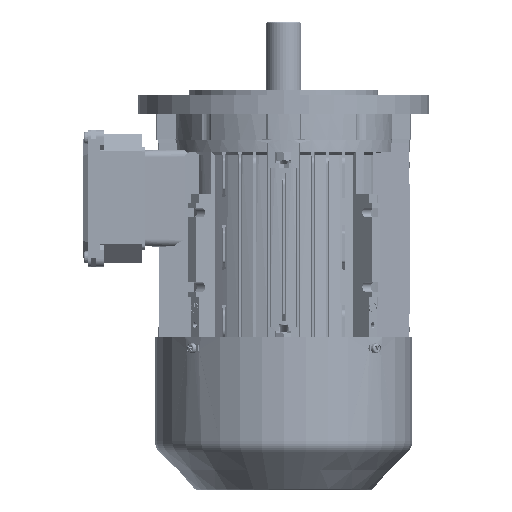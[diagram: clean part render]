
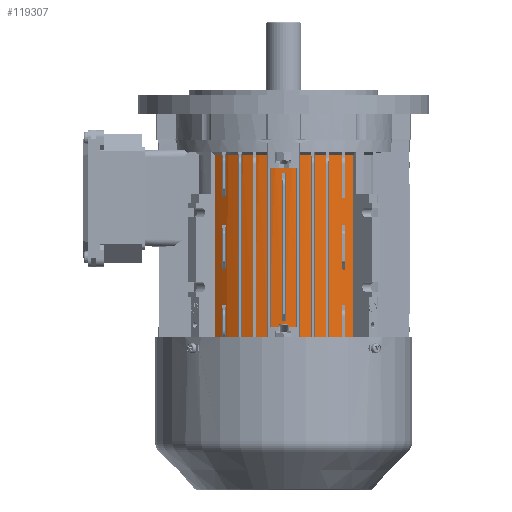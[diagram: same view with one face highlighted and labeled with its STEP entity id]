
A CAD part, left-side view. The second image highlights one B-rep face of the part: STEP entity #119307.
In plain terms, the highlighted cylindrical face has radius 71.192 mm (diameter 142.384 mm), a partial arc.
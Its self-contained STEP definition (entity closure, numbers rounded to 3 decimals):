
#2863 = DIRECTION ( 'NONE',  ( 0., 0., 1. ) ) ;
#3553 = DIRECTION ( 'NONE',  ( 0., 0., -1. ) ) ;
#6653 = VERTEX_POINT ( 'NONE', #12723 ) ;
#9259 = VERTEX_POINT ( 'NONE', #29663 ) ;
#11440 = CIRCLE ( 'NONE', #16991, 71.192 ) ;
#12723 = CARTESIAN_POINT ( 'NONE',  ( -71.192, 0., -143.977 ) ) ;
#16171 = CYLINDRICAL_SURFACE ( 'NONE', #94681, 71.192 ) ;
#16991 = AXIS2_PLACEMENT_3D ( 'NONE', #60239, #131870, #70512 ) ;
#17611 = EDGE_CURVE ( 'NONE', #31465, #124994, #41869, .T. ) ;
#23667 = CARTESIAN_POINT ( 'NONE',  ( -53.089, 47.433, -13.023 ) ) ;
#25072 = ORIENTED_EDGE ( 'NONE', *, *, #68461, .T. ) ;
#28143 = AXIS2_PLACEMENT_3D ( 'NONE', #38616, #110292, #48920 ) ;
#29663 = CARTESIAN_POINT ( 'NONE',  ( -53.089, 47.433, -143.977 ) ) ;
#31465 = VERTEX_POINT ( 'NONE', #90799 ) ;
#35254 = DIRECTION ( 'NONE',  ( 0., 0., 1. ) ) ;
#37753 = DIRECTION ( 'NONE',  ( 0., 0., 1. ) ) ;
#38616 = CARTESIAN_POINT ( 'NONE',  ( 0., 0., -143.977 ) ) ;
#41869 = LINE ( 'NONE', #99169, #54722 ) ;
#44114 = VERTEX_POINT ( 'NONE', #23667 ) ;
#48920 = DIRECTION ( 'NONE',  ( 1., 0., 0. ) ) ;
#51723 = CIRCLE ( 'NONE', #115138, 71.192 ) ;
#54722 = VECTOR ( 'NONE', #37753, 1000. ) ;
#57066 = ORIENTED_EDGE ( 'NONE', *, *, #96971, .T. ) ;
#57899 = CIRCLE ( 'NONE', #28143, 71.192 ) ;
#60239 = CARTESIAN_POINT ( 'NONE',  ( 0., 0., -143.977 ) ) ;
#62913 = DIRECTION ( 'NONE',  ( 1., 0., 0. ) ) ;
#68108 = EDGE_CURVE ( 'NONE', #6653, #31465, #11440, .T. ) ;
#68461 = EDGE_CURVE ( 'NONE', #9259, #6653, #57899, .T. ) ;
#70512 = DIRECTION ( 'NONE',  ( 1., 0., 0. ) ) ;
#76660 = ORIENTED_EDGE ( 'NONE', *, *, #68108, .T. ) ;
#77934 = VECTOR ( 'NONE', #3553, 1000. ) ;
#81111 = LINE ( 'NONE', #85585, #77934 ) ;
#84598 = CARTESIAN_POINT ( 'NONE',  ( -53.089, -47.433, -13.023 ) ) ;
#85585 = CARTESIAN_POINT ( 'NONE',  ( -53.089, 47.433, 0. ) ) ;
#86832 = EDGE_LOOP ( 'NONE', ( #116501, #57066, #25072, #76660, #99803 ) ) ;
#90799 = CARTESIAN_POINT ( 'NONE',  ( -53.089, -47.433, -143.977 ) ) ;
#94681 = AXIS2_PLACEMENT_3D ( 'NONE', #125621, #2863, #62913 ) ;
#96671 = CARTESIAN_POINT ( 'NONE',  ( 0., 0., -13.023 ) ) ;
#96971 = EDGE_CURVE ( 'NONE', #44114, #9259, #81111, .T. ) ;
#98005 = FACE_OUTER_BOUND ( 'NONE', #86832, .T. ) ;
#99052 = EDGE_CURVE ( 'NONE', #44114, #124994, #51723, .T. ) ;
#99169 = CARTESIAN_POINT ( 'NONE',  ( -53.089, -47.433, 0. ) ) ;
#99803 = ORIENTED_EDGE ( 'NONE', *, *, #17611, .T. ) ;
#106923 = DIRECTION ( 'NONE',  ( 1., 0., 0. ) ) ;
#110292 = DIRECTION ( 'NONE',  ( 0., 0., 1. ) ) ;
#115138 = AXIS2_PLACEMENT_3D ( 'NONE', #96671, #35254, #106923 ) ;
#116501 = ORIENTED_EDGE ( 'NONE', *, *, #99052, .F. ) ;
#119307 = ADVANCED_FACE ( 'NONE', ( #98005 ), #16171, .T. ) ;
#124994 = VERTEX_POINT ( 'NONE', #84598 ) ;
#125621 = CARTESIAN_POINT ( 'NONE',  ( 0., 0., 0. ) ) ;
#131870 = DIRECTION ( 'NONE',  ( 0., 0., 1. ) ) ;
